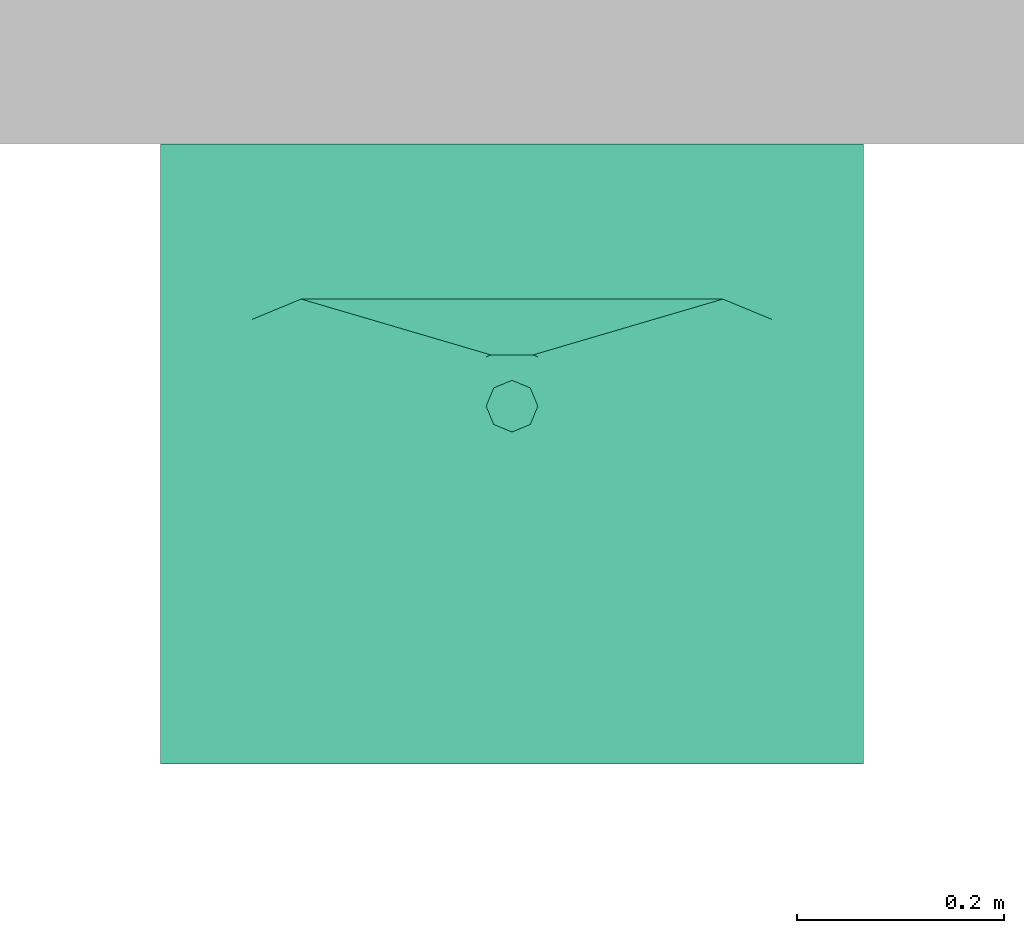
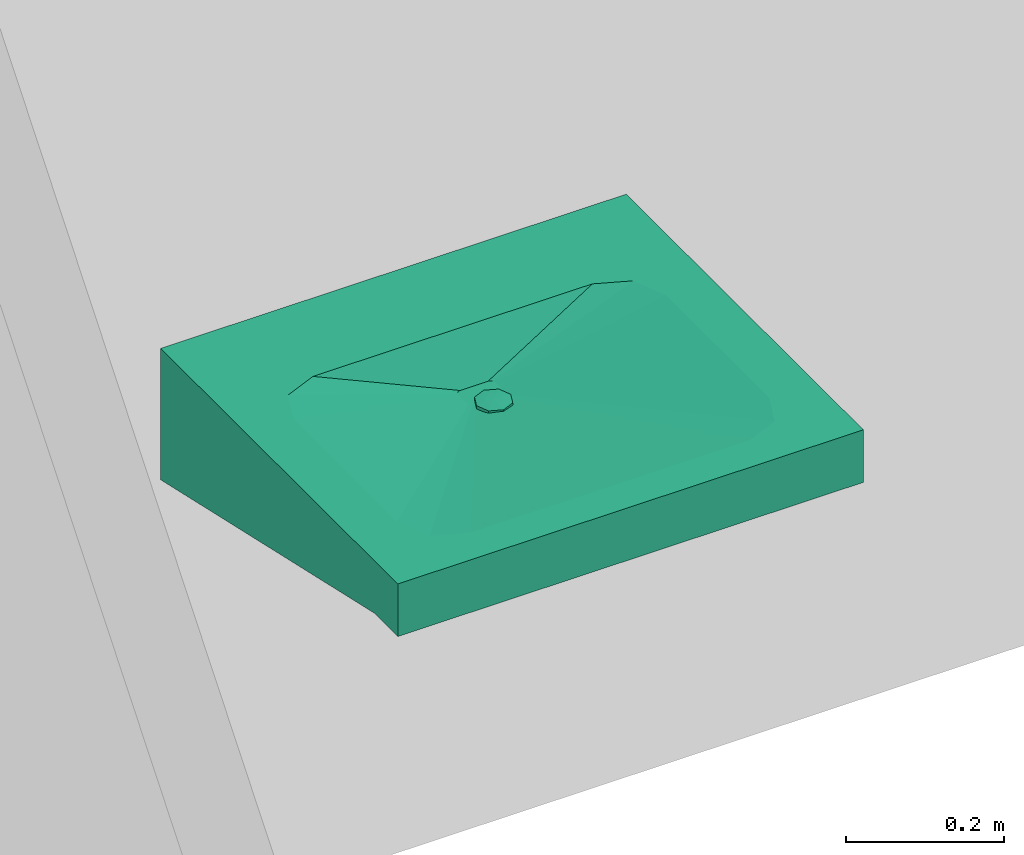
# One storey, part 23 of 25: 1 distribution flow element.
"""IFC2X3 building model written with IfcOpenShell, lengths in millimetres."""

import ifcopenshell
import ifcopenshell.guid

model = None  # the IFC model being written
_history = None  # IfcOwnerHistory: only IFC2X3 demands one
_inside = {}  # id of a spatial element -> (the spatial element, [elements in it])
_under = {}  # id of a project, library or spatial element -> (it, [spatial elements below it])
_declared = {}  # id of a project -> (the project, [libraries it declares])
_typed = {}  # id of a type object -> (the type object, [elements of that type])
_made_of = {}  # id of a material, layer set ... -> (it, [elements and type objects made of it])


def new_model(schema):
    """Start an empty IFC model of exactly this schema.

    Asked for "IFC4X3", IfcOpenShell would pick the latest addendum, in which some entities
    have other attributes; the version numbers below select the first issue.
    IFC2X3 requires an IfcOwnerHistory on every rooted entity: one is made here for all.
    """
    global model, _history
    if schema == "IFC4X3":
        model = ifcopenshell.file(schema_version=(4, 3, 0, 0))
    else:
        model = ifcopenshell.file(schema=schema)
    _inside.clear()
    _under.clear()
    _declared.clear()
    _typed.clear()
    _made_of.clear()
    _history = None
    if model.schema == "IFC2X3":
        org = make("IfcOrganization", Name="unknown")
        user = make(
            "IfcPersonAndOrganization",
            ThePerson=make("IfcPerson", FamilyName="unknown"),
            TheOrganization=org,
        )
        app = make(
            "IfcApplication",
            ApplicationDeveloper=org,
            Version="unknown",
            ApplicationFullName="unknown",
            ApplicationIdentifier="unknown",
        )
        _history = make(
            "IfcOwnerHistory",
            OwningUser=user,
            OwningApplication=app,
            ChangeAction="ADDED",
            CreationDate=0,
        )
    return model


def make(cls, **values):
    """One entity of the class cls with the attributes given. An attribute that is None is left unset."""
    return model.create_entity(
        cls, **{name: value for name, value in values.items() if value is not None}
    )


def entity(cls, *values):
    """Any entity or typed value of the class cls, its attributes in the order of the schema. None: left unset."""
    e = model.create_entity(cls)
    for i, value in enumerate(values):
        if value is not None:
            e[i] = value
    return e


def rooted(cls, **values):
    """An entity with a GlobalId (a new one), such as an element, a storey or a relation."""
    return make(cls, GlobalId=ifcopenshell.guid.new(), OwnerHistory=_history, **values)


def si_unit(unit_type, name, prefix=None):
    """IfcSIUnit, for example si_unit("LENGTHUNIT", "METRE", prefix="MILLI")."""
    return make("IfcSIUnit", UnitType=unit_type, Prefix=prefix, Name=name)


def converted_unit(unit_type, name, factor, base, dimensions=None, offset=None):
    """IfcConversionBasedUnit, such as the inch: factor (a typed value) times the base unit."""
    return make(
        "IfcConversionBasedUnit"
        if offset is None
        else "IfcConversionBasedUnitWithOffset",
        ConversionOffset=offset,
        Dimensions=None
        if dimensions is None
        else entity("IfcDimensionalExponents", *dimensions),
        UnitType=unit_type,
        Name=name,
        ConversionFactor=make(
            "IfcMeasureWithUnit", ValueComponent=factor, UnitComponent=base
        ),
    )


def derived_unit(unit_type, elements):
    """IfcDerivedUnit: a product of units, each with its exponent."""
    return make(
        "IfcDerivedUnit",
        Elements=[
            make("IfcDerivedUnitElement", Unit=unit, Exponent=power)
            for unit, power in elements
        ],
        UnitType=unit_type,
    )


def money_unit(currency):
    """IfcMonetaryUnit."""
    return make("IfcMonetaryUnit", Currency=currency)


def assignment(units):
    """IfcUnitAssignment: the units of a project."""
    return None if units is None else make("IfcUnitAssignment", Units=units)


def point(xyz):
    """IfcCartesianPoint."""
    return None if xyz is None else make("IfcCartesianPoint", Coordinates=xyz)


def direction(xyz):
    """IfcDirection."""
    return None if xyz is None else make("IfcDirection", DirectionRatios=xyz)


def frame(location, z_axis=None, x_axis=None):
    """IfcAxis2Placement3D, a coordinate frame: its origin and axes. An axis left out is left unset."""
    return make(
        "IfcAxis2Placement3D",
        Location=point(location),
        Axis=direction(z_axis),
        RefDirection=direction(x_axis),
    )


def origin_with_axes():
    """The frame at (0, 0, 0) with the z axis (0, 0, 1) and the x axis (1, 0, 0) written out."""
    return frame((0.0, 0.0, 0.0), z_axis=(0.0, 0.0, 1.0), x_axis=(1.0, 0.0, 0.0))


def place(relative_to, where):
    """IfcLocalPlacement: puts the frame where relative to a parent placement (None: the world)."""
    return make(
        "IfcLocalPlacement", PlacementRelTo=relative_to, RelativePlacement=where
    )


def context(
    kind, dimensions, precision=None, world=None, true_north=None, identifier=None
):
    """IfcGeometricRepresentationContext, for example the 3D "Model" context."""
    return make(
        "IfcGeometricRepresentationContext",
        ContextIdentifier=identifier,
        ContextType=kind,
        CoordinateSpaceDimension=dimensions,
        Precision=precision,
        WorldCoordinateSystem=world,
        TrueNorth=true_north,
    )


def subcontext(parent, identifier, kind, view, scale=None):
    """IfcGeometricRepresentationSubContext, for example "Body" below "Model"."""
    return make(
        "IfcGeometricRepresentationSubContext",
        ContextIdentifier=identifier,
        ContextType=kind,
        ParentContext=parent,
        TargetScale=scale,
        TargetView=view,
    )


def project(units=None, contexts=None):
    """IfcProject with its units and contexts."""
    return rooted(
        "IfcProject",
        Name="project",
        RepresentationContexts=contexts,
        UnitsInContext=assignment(units),
    )


def spatial(cls, under=None, at=None, **own):
    """A site, building, storey or space (cls), placed at a placement, below another one or the project."""
    s = rooted(cls, ObjectPlacement=at, **own)
    if under is not None:
        _under.setdefault(under.id(), (under, []))[1].append(s)
    return s


def faces_of(points, faces, orient=None, outer=None):
    """IfcFace entities. A face is a list of loops; a loop is a list of indices into points, from 0.

    orient and outer hold one flag for each loop. By default every Orientation is true, the
    first loop of a face is its IfcFaceOuterBound and the others are IfcFaceBound.
    """
    made = []
    for i, loops in enumerate(faces):
        bounds = []
        for j, loop in enumerate(loops):
            is_outer = j == 0 if outer is None else outer[i][j]
            bounds.append(
                make(
                    "IfcFaceOuterBound" if is_outer else "IfcFaceBound",
                    Bound=make("IfcPolyLoop", Polygon=[points[k] for k in loop]),
                    Orientation=True if orient is None else orient[i][j],
                )
            )
        made.append(make("IfcFace", Bounds=bounds))
    return made


def open_shell(faces, orient=None, outer=None):
    """The faces of one IfcOpenShell. surface_model builds it on its shared points."""
    return ("IfcOpenShell", faces, orient, outer)


def faceted_brep(points, faces, orient=None, outer=None, voids=None):
    """IfcFacetedBrep: a solid bounded by flat faces; with voids (closed shells), ...WithVoids."""
    shared = [point(p) for p in points]
    hull = make("IfcClosedShell", CfsFaces=faces_of(shared, faces, orient, outer))
    if voids is None:
        return make("IfcFacetedBrep", Outer=hull)
    return make(
        "IfcFacetedBrepWithVoids",
        Outer=hull,
        Voids=[
            make(cls, CfsFaces=faces_of(shared, fs, o, b)) for cls, fs, o, b in voids
        ],
    )


def surface_model(cls, points, shells):
    """IfcFaceBasedSurfaceModel or IfcShellBasedSurfaceModel (cls): surfaces that need not close."""
    shared = [point(p) for p in points]
    made = [make(c, CfsFaces=faces_of(shared, fs, o, b)) for c, fs, o, b in shells]
    if cls == "IfcFaceBasedSurfaceModel":
        return make(cls, FbsmFaces=made)
    return make(cls, SbsmBoundary=made)


def shape(context_of_items, identifier, shape_type, items):
    """IfcShapeRepresentation: the items that make up one representation, for example the "Body"."""
    return make(
        "IfcShapeRepresentation",
        ContextOfItems=context_of_items,
        RepresentationIdentifier=identifier,
        RepresentationType=shape_type,
        Items=items,
    )


def source(mapping_origin, context_of_items, identifier, shape_type, items):
    """IfcRepresentationMap: a shape defined once, which mapped items show again and again."""
    return make(
        "IfcRepresentationMap",
        MappingOrigin=mapping_origin,
        MappedRepresentation=shape(context_of_items, identifier, shape_type, items),
    )


def transform(
    local_origin,
    x_axis=None,
    y_axis=None,
    z_axis=None,
    scale=None,
    scale2=None,
    scale3=None,
    uniform=True,
):
    """IfcCartesianTransformationOperator3D, or its non-uniform kind. x_axis, y_axis, z_axis: its Axis1, 2, 3."""
    if uniform:
        return make(
            "IfcCartesianTransformationOperator3D",
            Axis1=direction(x_axis),
            Axis2=direction(y_axis),
            LocalOrigin=point(local_origin),
            Scale=scale,
            Axis3=direction(z_axis),
        )
    return make(
        "IfcCartesianTransformationOperator3DnonUniform",
        Axis1=direction(x_axis),
        Axis2=direction(y_axis),
        LocalOrigin=point(local_origin),
        Scale=scale,
        Axis3=direction(z_axis),
        Scale2=scale2,
        Scale3=scale3,
    )


def mapped(mapping_source, mapping_target):
    """IfcMappedItem: shows the shape of a source again, moved by a transform."""
    return make(
        "IfcMappedItem", MappingSource=mapping_source, MappingTarget=mapping_target
    )


def made_of(thing, what):
    """Note that an element or type object is made of a material, layer set ...; save() writes the relation."""
    if what is not None:
        _made_of.setdefault(what.id(), (what, []))[1].append(thing)
    return thing


def type_object(cls, material=None, **own):
    """A type object (cls), such as IfcWallType, which elements share."""
    return made_of(rooted(cls, **own), material)


def element(
    cls,
    number,
    at=None,
    inside=None,
    cuts=None,
    type_object=None,
    material=None,
    context=None,
    identifier="Body",
    shape_type=None,
    held_by="IfcProductDefinitionShape",
    body=None,
    shapes=None,
    **own,
):
    """One element of the class cls, such as IfcWall. Its Tag is "e" and its number.

    at: its placement. inside: the storey or other place that contains it. cuts: it is an
    opening in that element (IfcRelVoidsElement). A single representation is given by context,
    identifier, shape_type and body (its items); several are given by shapes. held_by: the class
    of the entity that holds the representations. save() writes the other relations.
    """
    e = rooted(cls, Tag="e%d" % number, ObjectPlacement=at, **own)
    if body is not None:
        shapes = [shape(context, identifier, shape_type, body)]
    if shapes is not None:
        e.Representation = make(held_by, Representations=shapes)
    if inside is not None:
        _inside.setdefault(inside.id(), (inside, []))[1].append(e)
    if cuts is not None:
        rooted(
            "IfcRelVoidsElement", RelatingBuildingElement=cuts, RelatedOpeningElement=e
        )
    if type_object is not None:
        _typed.setdefault(type_object.id(), (type_object, []))[1].append(e)
    return made_of(e, material)


def aggregate(whole, parts):
    """IfcRelAggregates: a whole, such as a stair, and the parts it consists of."""
    return rooted("IfcRelAggregates", RelatingObject=whole, RelatedObjects=parts)


def save(model, path):
    """Write the relations noted so far, then the file.

    IfcRelAggregates (storeys below a building ...), IfcRelContainedInSpatialStructure (elements
    in a storey), IfcRelDefinesByType, IfcRelAssociatesMaterial and IfcRelDeclares: one each for
    every whole, place, type object, material and project.
    """
    for whole, parts in _under.values():
        aggregate(whole, parts)
    for where, things in _inside.values():
        rooted(
            "IfcRelContainedInSpatialStructure",
            RelatedElements=things,
            RelatingStructure=where,
        )
    for kind, things in _typed.values():
        rooted("IfcRelDefinesByType", RelatedObjects=things, RelatingType=kind)
    for what, things in _made_of.values():
        rooted("IfcRelAssociatesMaterial", RelatedObjects=things, RelatingMaterial=what)
    for by, libraries in _declared.values():
        rooted("IfcRelDeclares", RelatingContext=by, RelatedDefinitions=libraries)
    model.write(path)


model = new_model("IFC2X3")

# Units and contexts
model_context = context("Model", 3, precision=0.01, world=origin_with_axes(), true_north=direction((0.0, 1.0)))
body_context = subcontext(model_context, "Body", "Model", "MODEL_VIEW")
ifc_project = project(units=[si_unit("LENGTHUNIT", "METRE", prefix="MILLI"), si_unit("AREAUNIT", "SQUARE_METRE"), si_unit("VOLUMEUNIT", "CUBIC_METRE"), converted_unit("PLANEANGLEUNIT", "DEGREE", entity("IfcPlaneAngleMeasure", 0.0174532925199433), si_unit("PLANEANGLEUNIT", "RADIAN"), dimensions=[0, 0, 0, 0, 0, 0, 0]), money_unit("USD"), converted_unit("TIMEUNIT", "Year", entity("IfcTimeMeasure", 31557600.0), si_unit("TIMEUNIT", "SECOND"), dimensions=[0, 0, 1, 0, 0, 0, 0]), si_unit("MASSUNIT", "GRAM", prefix="KILO"), si_unit("THERMODYNAMICTEMPERATUREUNIT", "DEGREE_CELSIUS"), si_unit("LUMINOUSINTENSITYUNIT", "LUMEN"), si_unit("ENERGYUNIT", "JOULE", prefix="MEGA"), derived_unit("THERMALCONDUCTANCEUNIT", [(si_unit("POWERUNIT", "WATT"), 1), (si_unit("LENGTHUNIT", "METRE"), -1), (si_unit("THERMODYNAMICTEMPERATUREUNIT", "KELVIN"), -1)]), derived_unit("SPECIFICHEATCAPACITYUNIT", [(si_unit("ENERGYUNIT", "JOULE"), 1), (si_unit("MASSUNIT", "GRAM", prefix="KILO"), -1), (si_unit("THERMODYNAMICTEMPERATUREUNIT", "KELVIN"), -1)]), derived_unit("MASSDENSITYUNIT", [(si_unit("MASSUNIT", "GRAM", prefix="KILO"), 1), (si_unit("VOLUMEUNIT", "CUBIC_METRE"), -1)])], contexts=[model_context])

# Site, building, storey
site_placement = place(None, origin_with_axes())
site = spatial("IfcSite", under=ifc_project, at=site_placement, Name="Site", CompositionType="ELEMENT")
building_placement = place(site_placement, origin_with_axes())
building = spatial("IfcBuilding", under=site, at=building_placement, Name="Building", CompositionType="ELEMENT")
storey_placement = place(building_placement, origin_with_axes())
storey = spatial("IfcBuildingStorey", under=building, at=storey_placement, Name="U ETG", CompositionType="ELEMENT", Elevation=0.0)

# Distribution flow element
valve_type = type_object("IfcValveType", Name="Servant", PredefinedType="USERDEFINED")
shared_shape = source(origin_with_axes(), body_context, "Body", "SurfaceModel", [
    surface_model("IfcShellBasedSurfaceModel", [(340.0, 0.0, 818.8000000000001), (340.0, 0.0, 900.0000000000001), (340.0, -600.0, 900.0000000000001), (340.0, -600.0, 818.8000000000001), (272.0, 0.0, 818.8000000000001), (272.0, 0.0, 900.0000000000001), (-272.0, 0.0, 900.0000000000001), (-340.0, 0.0, 900.0000000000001), (-340.0, -600.0, 900.0000000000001), (0.0, -150.0, 900.0000000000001), (204.0, -150.0, 900.0000000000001), (252.0832611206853, -169.9167388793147, 900.0000000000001), (272.0, -218.0, 900.0000000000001), (272.0, -480.0, 900.0000000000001), (252.0832611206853, -528.0832611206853, 900.0000000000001), (204.0, -548.0, 900.0000000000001), (-204.0, -548.0, 900.0000000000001), (-252.0832611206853, -528.0832611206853, 900.0000000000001), (-272.0, -480.0, 900.0000000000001), (-272.0, -218.0, 900.0000000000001), (-252.0832611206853, -169.9167388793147, 900.0000000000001), (-204.0, -150.0, 900.0000000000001), (-340.0, -600.0, 818.8000000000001), (-340.0, 0.0, 818.8000000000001), (-272.0, 0.0, 818.8000000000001), (0.0, -150.0, 818.8000000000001), (-204.0, -150.0, 818.8000000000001), (-252.0832611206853, -169.9167388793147, 818.8000000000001), (-272.0, -218.0, 818.8000000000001), (-272.0, -480.0, 818.8000000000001), (-252.0832611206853, -528.0832611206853, 818.8000000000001), (-204.0, -548.0, 818.8000000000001), (204.0, -548.0, 818.8000000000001), (252.0832611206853, -528.0832611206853, 818.8000000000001), (272.0, -480.0, 818.8000000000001), (272.0, -218.0, 818.8000000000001), (252.0832611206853, -169.9167388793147, 818.8000000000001), (204.0, -150.0, 818.8000000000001)], [open_shell([[[0, 1, 2, 3]], [[4, 5, 1, 0]], [[1, 5, 6, 7, 8, 2], [9, 10, 11, 12, 13, 14, 15, 16, 17, 18, 19, 20, 21]], [[3, 2, 8, 22]], [[0, 3, 22, 23, 24, 4], [25, 26, 27, 28, 29, 30, 31, 32, 33, 34, 35, 36, 37]], [[24, 6, 5, 4]], [[23, 7, 6, 24]], [[22, 8, 7, 23]]])]),
    surface_model("IfcShellBasedSurfaceModel", [(-340.0, 0.0, 818.8000000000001), (-272.0, 0.0, 818.8000000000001), (-272.0, 0.0, 697.0000000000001), (-340.0, 0.0, 697.0000000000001), (-272.0, -540.0, 818.8000000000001), (-340.0, -540.0, 818.8000000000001)], [open_shell([[[0, 1, 2, 3]], [[1, 4, 2]], [[3, 2, 4, 5]], [[0, 3, 5]]])]),
    surface_model("IfcShellBasedSurfaceModel", [(272.0000000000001, 0.0, 818.8000000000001), (340.0000000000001, 0.0, 818.8000000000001), (340.0000000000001, 0.0, 697.0000000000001), (272.0000000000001, 0.0, 697.0000000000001), (340.0000000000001, -540.0, 818.8000000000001), (272.0000000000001, -540.0, 818.8000000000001)], [open_shell([[[0, 1, 2, 3]], [[1, 4, 2]], [[3, 2, 4, 5]], [[0, 3, 5]]])]),
    surface_model("IfcShellBasedSurfaceModel", [(-204.0, -150.0, 900.0000000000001), (-20.40000000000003, -204.0, 846.7125000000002), (-25.20832611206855, -205.9916738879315, 846.7125000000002), (204.0, -150.0, 900.0000000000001), (20.39999999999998, -204.0, 846.7125000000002), (25.2083261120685, -205.9916738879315, 846.7125000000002), (27.19999999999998, -210.8, 846.7125000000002), (27.19999999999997, -237.0, 846.7125000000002), (25.20832611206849, -241.8083261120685, 846.7125000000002), (20.39999999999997, -243.8, 846.7125000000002), (-20.40000000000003, -243.8, 846.7125000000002), (-25.20832611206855, -241.8083261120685, 846.7125000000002), (-27.20000000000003, -237.0, 846.7125000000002), (-27.20000000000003, -210.8, 846.7125000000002), (-252.0832611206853, -169.9167388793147, 900.0000000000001), (252.0832611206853, -169.9167388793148, 900.0000000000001), (272.0, -218.0, 900.0000000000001), (271.9999999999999, -480.0000000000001, 900.0000000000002), (252.0832611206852, -528.0832611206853, 900.0000000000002), (204.0, -548.0, 900.0000000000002), (-204.0000000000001, -548.0, 900.0000000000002), (-252.0832611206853, -528.0832611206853, 900.0000000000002), (-272.0000000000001, -479.9999999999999, 900.0000000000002), (-272.0, -218.0, 900.0000000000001)], [open_shell([[[0, 1, 2]], [[1, 0, 3]], [[1, 4, 5, 6, 7, 8, 9, 10, 11, 12, 13, 2]], [[2, 14, 0]], [[3, 4, 1]], [[15, 5, 4]], [[16, 6, 5]], [[17, 7, 6]], [[18, 8, 7]], [[19, 9, 8]], [[20, 10, 9]], [[21, 11, 10]], [[22, 12, 11]], [[23, 13, 12]], [[14, 2, 13]], [[4, 3, 15]], [[5, 15, 16]], [[6, 16, 17]], [[7, 17, 18]], [[8, 18, 19]], [[9, 19, 20]], [[10, 20, 21]], [[11, 21, 22]], [[12, 22, 23]], [[13, 23, 14]]])]),
    surface_model("IfcShellBasedSurfaceModel", [(-204.0, -150.0, 818.8000000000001), (-20.40000000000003, -204.0, 765.5125000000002), (-25.20832611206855, -205.9916738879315, 765.5125000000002), (204.0, -150.0, 818.8000000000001), (20.39999999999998, -204.0, 765.5125000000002), (25.2083261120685, -205.9916738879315, 765.5125000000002), (27.19999999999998, -210.8, 765.5125000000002), (27.19999999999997, -237.0, 765.5125000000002), (25.20832611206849, -241.8083261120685, 765.5125000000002), (20.39999999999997, -243.8, 765.5125000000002), (-20.40000000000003, -243.8, 765.5125000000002), (-25.20832611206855, -241.8083261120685, 765.5125000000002), (-27.20000000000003, -237.0, 765.5125000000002), (-27.20000000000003, -210.8, 765.5125000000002), (-252.0832611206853, -169.9167388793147, 818.8000000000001), (252.0832611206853, -169.9167388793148, 818.8000000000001), (272.0, -218.0, 818.8000000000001), (271.9999999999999, -480.0000000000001, 818.8000000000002), (252.0832611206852, -528.0832611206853, 818.8000000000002), (204.0, -548.0, 818.8000000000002), (-204.0000000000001, -548.0, 818.8000000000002), (-252.0832611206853, -528.0832611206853, 818.8000000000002), (-272.0000000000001, -479.9999999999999, 818.8000000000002), (-272.0, -218.0, 818.8000000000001)], [open_shell([[[0, 1, 2]], [[1, 0, 3]], [[1, 4, 5, 6, 7, 8, 9, 10, 11, 12, 13, 2]], [[2, 14, 0]], [[3, 4, 1]], [[15, 5, 4]], [[16, 6, 5]], [[17, 7, 6]], [[18, 8, 7]], [[19, 9, 8]], [[20, 10, 9]], [[21, 11, 10]], [[22, 12, 11]], [[23, 13, 12]], [[14, 2, 13]], [[4, 3, 15]], [[5, 15, 16]], [[6, 16, 17]], [[7, 17, 18]], [[8, 18, 19]], [[9, 19, 20]], [[10, 20, 21]], [[11, 21, 22]], [[12, 22, 23]], [[13, 23, 14]]])]),
    faceted_brep([(-17.67766952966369, -271.2976695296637, 850.0000000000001), (-25.0, -253.62, 850.0000000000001), (-17.67766952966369, -235.9423304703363, 850.0000000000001), (0.0, -228.62, 850.0000000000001), (17.67766952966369, -235.9423304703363, 850.0000000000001), (25.00000000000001, -253.62, 850.0000000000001), (17.67766952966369, -271.2976695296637, 850.0000000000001), (0.0, -278.6200000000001, 850.0000000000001), (-17.67766952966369, -271.2976695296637, 855.0000000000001), (-25.0, -253.62, 855.0000000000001), (-17.67766952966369, -235.9423304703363, 855.0000000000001), (0.0, -228.62, 855.0000000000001), (17.67766952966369, -235.9423304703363, 855.0000000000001), (25.00000000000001, -253.62, 855.0000000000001), (17.67766952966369, -271.2976695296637, 855.0000000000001), (0.0, -278.6200000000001, 855.0000000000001)], [[[0, 1, 2, 3, 4, 5, 6, 7]], [[0, 8, 9, 1]], [[1, 9, 10, 2]], [[2, 10, 11, 3]], [[3, 11, 12, 4]], [[4, 12, 13, 5]], [[5, 13, 14, 6]], [[6, 14, 15, 7]], [[7, 15, 8, 0]], [[8, 15, 14, 13, 12, 11, 10, 9]]]),
    surface_model("IfcShellBasedSurfaceModel", [(0.0, -253.62, 857.0000000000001), (8.925035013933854, -244.6949649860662, 856.4975737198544), (0.0, -240.99809443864, 856.4975737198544), (12.62190556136, -253.62, 856.4975737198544), (17.67766952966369, -235.9423304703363, 855.0000000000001), (0.0, -228.62, 855.0000000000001), (-8.925035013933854, -244.6949649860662, 856.4975737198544), (8.925035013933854, -262.5450350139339, 856.4975737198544), (25.00000000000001, -253.62, 855.0000000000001), (-17.67766952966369, -235.9423304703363, 855.0000000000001), (-12.62190556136, -253.62, 856.4975737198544), (0.0, -266.24190556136, 856.4975737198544), (17.67766952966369, -271.2976695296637, 855.0000000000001), (-25.00000000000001, -253.62, 855.0000000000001), (-8.925035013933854, -262.5450350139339, 856.4975737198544), (0.0, -278.6200000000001, 855.0000000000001), (-17.67766952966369, -271.2976695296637, 855.0000000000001)], [open_shell([[[0, 1, 2]], [[0, 3, 1]], [[1, 4, 5, 2]], [[0, 2, 6]], [[0, 7, 3]], [[3, 8, 4, 1]], [[2, 5, 9, 6]], [[0, 6, 10]], [[0, 11, 7]], [[7, 12, 8, 3]], [[6, 9, 13, 10]], [[0, 10, 14]], [[0, 14, 11]], [[11, 15, 12, 7]], [[10, 13, 16, 14]], [[14, 16, 15, 11]]])]),
])
distribution_flow_element_placement = place(storey_placement, frame((68827.04589267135, 4679.85096456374, 0.0), z_axis=(0.0, 0.0, 1.0), x_axis=(0.9999999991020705, -4.237757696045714e-05, 0.0)))
element("IfcDistributionFlowElement", 1, at=distribution_flow_element_placement, inside=storey, type_object=valve_type, Name="FU - 001", ObjectType="Distribution Flow Element", context=body_context, shape_type="MappedRepresentation", body=[
    mapped(shared_shape, transform((0.0, 0.0, 0.0))),
])

save(model, "model.ifc")
